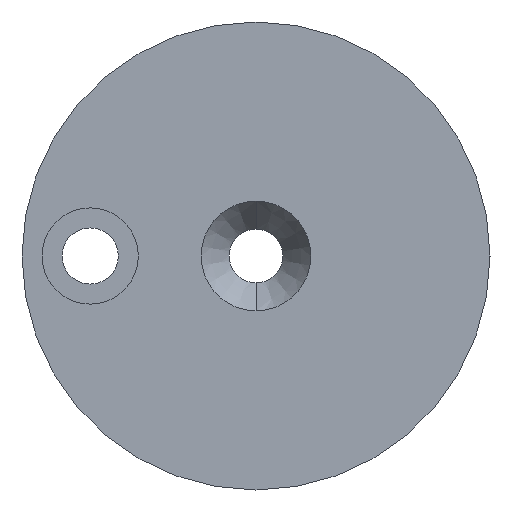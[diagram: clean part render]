
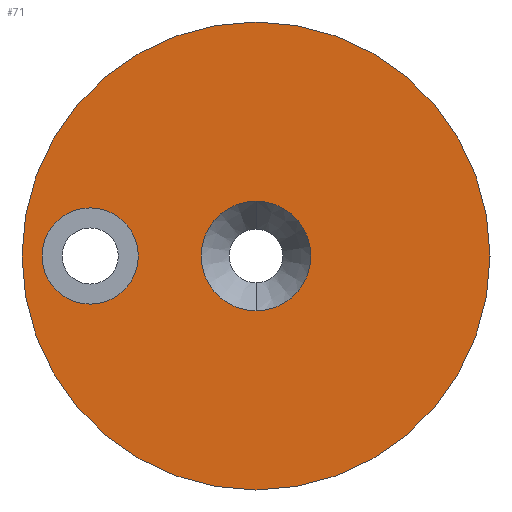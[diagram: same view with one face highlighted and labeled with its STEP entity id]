
A CAD part, left-side view. The second image highlights one B-rep face of the part: STEP entity #71.
In plain terms, the highlighted planar face has unit normal (-1, 0, 0).
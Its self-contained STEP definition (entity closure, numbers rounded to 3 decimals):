
#10 = VERTEX_POINT ( 'NONE', #416 ) ;
#14 = PLANE ( 'NONE',  #115 ) ;
#17 = AXIS2_PLACEMENT_3D ( 'NONE', #351, #580, #357 ) ;
#26 = CARTESIAN_POINT ( 'NONE',  ( 0., 4.101, 0. ) ) ;
#27 = DIRECTION ( 'NONE',  ( 0., 0., 1. ) ) ;
#31 = EDGE_CURVE ( 'NONE', #133, #139, #127, .T. ) ;
#33 = CIRCLE ( 'NONE', #444, 3.6 ) ;
#50 = CARTESIAN_POINT ( 'NONE',  ( 0., 12.4, 0. ) ) ;
#71 = ADVANCED_FACE ( 'NONE', ( #588, #467, #174 ), #14, .F. ) ;
#78 = DIRECTION ( 'NONE',  ( -1., 0., 0. ) ) ;
#79 = DIRECTION ( 'NONE',  ( -1., 0., 0. ) ) ;
#90 = CARTESIAN_POINT ( 'NONE',  ( 0., 0., 0. ) ) ;
#96 = CARTESIAN_POINT ( 'NONE',  ( 0., 0., -17.5 ) ) ;
#101 = ORIENTED_EDGE ( 'NONE', *, *, #211, .T. ) ;
#108 = CIRCLE ( 'NONE', #296, 17.5 ) ;
#111 = ORIENTED_EDGE ( 'NONE', *, *, #31, .F. ) ;
#115 = AXIS2_PLACEMENT_3D ( 'NONE', #26, #468, #243 ) ;
#127 = CIRCLE ( 'NONE', #275, 3.6 ) ;
#129 = CARTESIAN_POINT ( 'NONE',  ( 0., 0., 0. ) ) ;
#133 = VERTEX_POINT ( 'NONE', #547 ) ;
#139 = VERTEX_POINT ( 'NONE', #315 ) ;
#143 = EDGE_LOOP ( 'NONE', ( #372, #111 ) ) ;
#158 = CIRCLE ( 'NONE', #17, 17.5 ) ;
#161 = DIRECTION ( 'NONE',  ( 0., 0., 1. ) ) ;
#171 = CIRCLE ( 'NONE', #317, 4.101 ) ;
#174 = FACE_OUTER_BOUND ( 'NONE', #378, .T. ) ;
#181 = AXIS2_PLACEMENT_3D ( 'NONE', #341, #437, #386 ) ;
#198 = CIRCLE ( 'NONE', #181, 4.101 ) ;
#211 = EDGE_CURVE ( 'NONE', #343, #419, #108, .T. ) ;
#232 = CARTESIAN_POINT ( 'NONE',  ( 0., 0., 17.5 ) ) ;
#243 = DIRECTION ( 'NONE',  ( 0., 0., -1. ) ) ;
#245 = ORIENTED_EDGE ( 'NONE', *, *, #336, .T. ) ;
#251 = EDGE_CURVE ( 'NONE', #510, #10, #198, .T. ) ;
#252 = DIRECTION ( 'NONE',  ( -1., 0., 0. ) ) ;
#275 = AXIS2_PLACEMENT_3D ( 'NONE', #50, #393, #161 ) ;
#281 = ORIENTED_EDGE ( 'NONE', *, *, #441, .F. ) ;
#296 = AXIS2_PLACEMENT_3D ( 'NONE', #129, #78, #366 ) ;
#299 = EDGE_LOOP ( 'NONE', ( #281, #347 ) ) ;
#315 = CARTESIAN_POINT ( 'NONE',  ( 0., 12.4, 3.6 ) ) ;
#317 = AXIS2_PLACEMENT_3D ( 'NONE', #90, #252, #529 ) ;
#336 = EDGE_CURVE ( 'NONE', #419, #343, #158, .T. ) ;
#341 = CARTESIAN_POINT ( 'NONE',  ( 0., 0., 0. ) ) ;
#343 = VERTEX_POINT ( 'NONE', #232 ) ;
#344 = EDGE_CURVE ( 'NONE', #139, #133, #33, .T. ) ;
#347 = ORIENTED_EDGE ( 'NONE', *, *, #251, .F. ) ;
#351 = CARTESIAN_POINT ( 'NONE',  ( 0., 0., 0. ) ) ;
#357 = DIRECTION ( 'NONE',  ( 0., 0., 1. ) ) ;
#366 = DIRECTION ( 'NONE',  ( 0., 0., 1. ) ) ;
#372 = ORIENTED_EDGE ( 'NONE', *, *, #344, .F. ) ;
#378 = EDGE_LOOP ( 'NONE', ( #101, #245 ) ) ;
#386 = DIRECTION ( 'NONE',  ( 0., 0., 1. ) ) ;
#393 = DIRECTION ( 'NONE',  ( -1., 0., 0. ) ) ;
#416 = CARTESIAN_POINT ( 'NONE',  ( 0., 0., 4.101 ) ) ;
#419 = VERTEX_POINT ( 'NONE', #96 ) ;
#437 = DIRECTION ( 'NONE',  ( -1., 0., 0. ) ) ;
#441 = EDGE_CURVE ( 'NONE', #10, #510, #171, .T. ) ;
#444 = AXIS2_PLACEMENT_3D ( 'NONE', #538, #79, #27 ) ;
#467 = FACE_BOUND ( 'NONE', #299, .T. ) ;
#468 = DIRECTION ( 'NONE',  ( 1., 0., 0. ) ) ;
#510 = VERTEX_POINT ( 'NONE', #558 ) ;
#529 = DIRECTION ( 'NONE',  ( 0., 0., 1. ) ) ;
#538 = CARTESIAN_POINT ( 'NONE',  ( 0., 12.4, 0. ) ) ;
#547 = CARTESIAN_POINT ( 'NONE',  ( 0., 12.4, -3.6 ) ) ;
#558 = CARTESIAN_POINT ( 'NONE',  ( 0., 0., -4.101 ) ) ;
#580 = DIRECTION ( 'NONE',  ( -1., 0., 0. ) ) ;
#588 = FACE_BOUND ( 'NONE', #143, .T. ) ;
